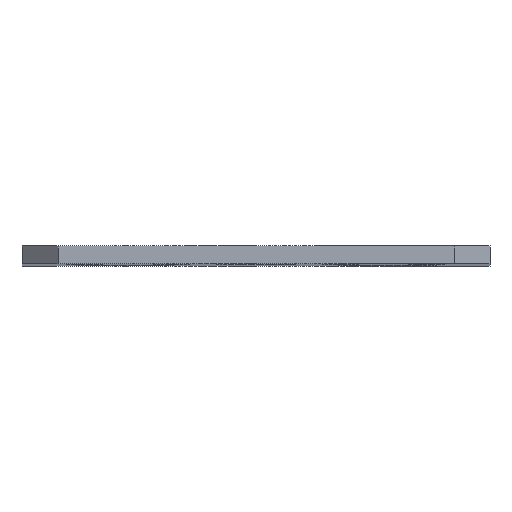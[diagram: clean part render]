
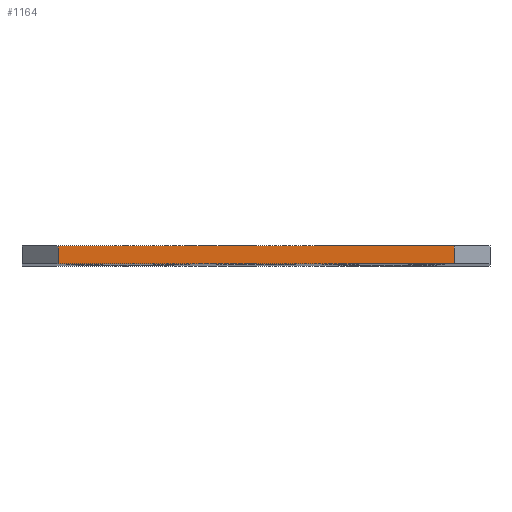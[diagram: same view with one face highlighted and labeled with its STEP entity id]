
A CAD part, top view. The second image highlights one B-rep face of the part: STEP entity #1164.
In plain terms, the highlighted planar face has unit normal (0, 0, 1).
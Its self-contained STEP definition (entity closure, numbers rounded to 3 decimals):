
#5 = VERTEX_POINT ( 'NONE', #205 ) ;
#89 = EDGE_CURVE ( 'NONE', #116, #206, #880, .T. ) ;
#116 = VERTEX_POINT ( 'NONE', #1913 ) ;
#205 = CARTESIAN_POINT ( 'NONE',  ( 60., 0., 0. ) ) ;
#206 = VERTEX_POINT ( 'NONE', #2037 ) ;
#253 = CARTESIAN_POINT ( 'NONE',  ( 5., 2.5, 0. ) ) ;
#284 = DIRECTION ( 'NONE',  ( 0., -1., 0. ) ) ;
#357 = VECTOR ( 'NONE', #1550, 1000. ) ;
#449 = CARTESIAN_POINT ( 'NONE',  ( 60., 2.5, 0. ) ) ;
#516 = CARTESIAN_POINT ( 'NONE',  ( 5., 2.5, 0. ) ) ;
#523 = EDGE_CURVE ( 'NONE', #116, #1712, #1629, .T. ) ;
#593 = DIRECTION ( 'NONE',  ( 1., 0., 0. ) ) ;
#624 = LINE ( 'NONE', #449, #2101 ) ;
#695 = EDGE_CURVE ( 'NONE', #206, #5, #624, .T. ) ;
#878 = DIRECTION ( 'NONE',  ( -1., 0., 0. ) ) ;
#880 = LINE ( 'NONE', #253, #1615 ) ;
#1036 = CARTESIAN_POINT ( 'NONE',  ( 5., 2.5, 0. ) ) ;
#1164 = ADVANCED_FACE ( 'NONE', ( #1680 ), #2034, .F. ) ;
#1179 = ORIENTED_EDGE ( 'NONE', *, *, #1788, .T. ) ;
#1188 = AXIS2_PLACEMENT_3D ( 'NONE', #1036, #1567, #878 ) ;
#1325 = DIRECTION ( 'NONE',  ( 1., 0., 0. ) ) ;
#1550 = DIRECTION ( 'NONE',  ( 0., -1., 0. ) ) ;
#1567 = DIRECTION ( 'NONE',  ( 0., 0., -1. ) ) ;
#1570 = CARTESIAN_POINT ( 'NONE',  ( 5., 0., 0. ) ) ;
#1615 = VECTOR ( 'NONE', #593, 1000. ) ;
#1629 = LINE ( 'NONE', #516, #357 ) ;
#1656 = ORIENTED_EDGE ( 'NONE', *, *, #523, .T. ) ;
#1671 = CARTESIAN_POINT ( 'NONE',  ( 5., 0., 0. ) ) ;
#1680 = FACE_OUTER_BOUND ( 'NONE', #1848, .T. ) ;
#1712 = VERTEX_POINT ( 'NONE', #1570 ) ;
#1732 = LINE ( 'NONE', #1671, #1782 ) ;
#1782 = VECTOR ( 'NONE', #1325, 1000. ) ;
#1788 = EDGE_CURVE ( 'NONE', #1712, #5, #1732, .T. ) ;
#1848 = EDGE_LOOP ( 'NONE', ( #1179, #1904, #2178, #1656 ) ) ;
#1904 = ORIENTED_EDGE ( 'NONE', *, *, #695, .F. ) ;
#1913 = CARTESIAN_POINT ( 'NONE',  ( 5., 2.5, 0. ) ) ;
#2034 = PLANE ( 'NONE',  #1188 ) ;
#2037 = CARTESIAN_POINT ( 'NONE',  ( 60., 2.5, 0. ) ) ;
#2101 = VECTOR ( 'NONE', #284, 1000. ) ;
#2178 = ORIENTED_EDGE ( 'NONE', *, *, #89, .F. ) ;
